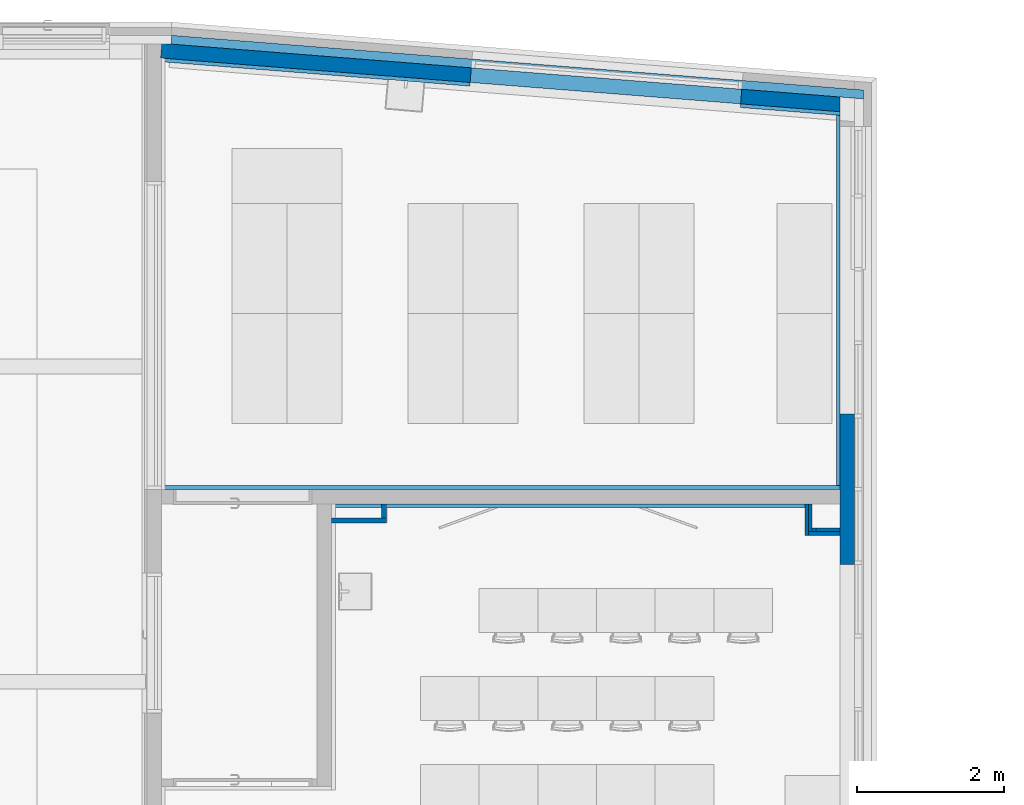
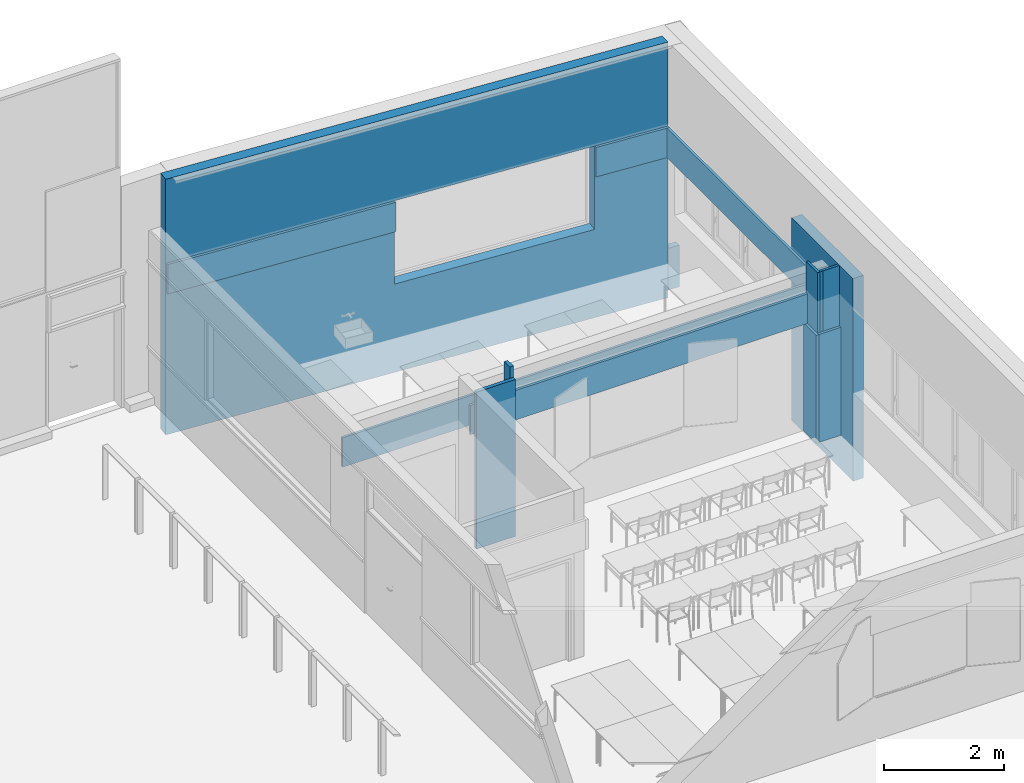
# One storey, part 66 of 137: 14 walls, 4 openings.
"""IFC2X3 building model written with IfcOpenShell, lengths in centimetres."""

from ifc_helpers import new_model, entity, si_unit, converted_unit, derived_unit, direction, frame, frame_2d, origin, origin_2d_with_axis, place, context, subcontext, project, spatial, polyline, rectangle, outline, extrude, clip, bounded_halfspace, material, layer, layer_set, layer_usage, type_object, element, save


model = new_model("IFC2X3")

# Units and contexts
model_context = context("Model", 3, precision=0.001, world=origin(), true_north=direction((6.12303176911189e-17, 1.0)))
body_context = subcontext(model_context, "Body", "Model", "MODEL_VIEW")
ifc_project = project(units=[si_unit("LENGTHUNIT", "METRE", prefix="CENTI"), si_unit("AREAUNIT", "SQUARE_METRE"), si_unit("VOLUMEUNIT", "CUBIC_METRE"), converted_unit("PLANEANGLEUNIT", "DEGREE", entity("IfcRatioMeasure", 0.0174532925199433), si_unit("PLANEANGLEUNIT", "RADIAN"), dimensions=[0, 0, 0, 0, 0, 0, 0]), si_unit("MASSUNIT", "GRAM", prefix="KILO"), si_unit("TIMEUNIT", "SECOND"), si_unit("FREQUENCYUNIT", "HERTZ"), si_unit("THERMODYNAMICTEMPERATUREUNIT", "DEGREE_CELSIUS"), derived_unit("THERMALTRANSMITTANCEUNIT", [(si_unit("MASSUNIT", "GRAM", prefix="KILO"), 1), (si_unit("THERMODYNAMICTEMPERATUREUNIT", "KELVIN"), -1), (si_unit("TIMEUNIT", "SECOND"), -3)]), derived_unit("VOLUMETRICFLOWRATEUNIT", [(si_unit("LENGTHUNIT", "METRE"), 3), (si_unit("TIMEUNIT", "SECOND"), -1)]), si_unit("ELECTRICCURRENTUNIT", "AMPERE"), si_unit("ELECTRICVOLTAGEUNIT", "VOLT"), si_unit("POWERUNIT", "WATT"), si_unit("FORCEUNIT", "NEWTON", prefix="KILO"), si_unit("ILLUMINANCEUNIT", "LUX"), si_unit("LUMINOUSFLUXUNIT", "LUMEN"), si_unit("LUMINOUSINTENSITYUNIT", "CANDELA"), derived_unit("USERDEFINED", [(si_unit("MASSUNIT", "GRAM", prefix="KILO"), -1), (si_unit("LENGTHUNIT", "METRE"), -2), (si_unit("TIMEUNIT", "SECOND"), 3), (si_unit("LUMINOUSFLUXUNIT", "LUMEN"), 1)]), derived_unit("LINEARVELOCITYUNIT", [(si_unit("LENGTHUNIT", "METRE"), 1), (si_unit("TIMEUNIT", "SECOND"), -1)]), si_unit("PRESSUREUNIT", "PASCAL"), derived_unit("USERDEFINED", [(si_unit("LENGTHUNIT", "METRE"), -2), (si_unit("MASSUNIT", "GRAM", prefix="KILO"), 1), (si_unit("TIMEUNIT", "SECOND"), -2)])], contexts=[model_context])

# Site, building, storey
site_placement = place(None, frame((8.62739174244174, -249.285249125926, 0.0)))
site = spatial("IfcSite", under=ifc_project, at=site_placement, Name="Default", CompositionType="ELEMENT")
building_placement = place(site_placement, origin())
building = spatial("IfcBuilding", under=site, at=building_placement, CompositionType="ELEMENT")
storey_placement = place(building_placement, origin())
storey = spatial("IfcBuildingStorey", under=building, at=storey_placement, Name="RDC", CompositionType="ELEMENT", Elevation=-8.82465566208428e-11)

# Walls
ifc_material_1 = material(Name="Plâtre")
ifc_layer_1 = layer(ifc_material_1, 5.0)
ifc_layer_set_1 = layer_set([ifc_layer_1], Name="Mur de base:PLA 5")
ifc_layer_usage_1 = layer_usage(ifc_layer_set_1, "AXIS2", "NEGATIVE", 2.5)
wall_type_1 = type_object("IfcWallType", Name="Mur de base:PLA 5", PredefinedType="STANDARD", material=ifc_layer_set_1)
wall_1_placement = place(storey_placement, frame((3978.90482781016, 6899.77522291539, 0.0), z_axis=(0.0, 0.0, 1.0), x_axis=(-1.0, 0.0, 0.0)))
element("IfcWallStandardCase", 1, at=wall_1_placement, inside=storey, type_object=wall_type_1, material=ifc_layer_usage_1, Name="Mur de base:PLA 5", ObjectType="Mur de base:PLA 5", context=body_context, shape_type="SweptSolid", body=[
    extrude(rectangle(XDim=32.5000000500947, YDim=5.0000000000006, at=frame_2d((16.2500000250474, 0.0), x_axis=(-1.0, 0.0))), origin(), (0.0, 0.0, 1.0), 343.000000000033),
])
ifc_layer_usage_2 = layer_usage(ifc_layer_set_1, "AXIS2", "NEGATIVE", 2.5)
wall_2_placement = place(storey_placement, frame((3978.90482781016, 6899.77522291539, 0.0), z_axis=(0.0, 0.0, 1.0), x_axis=(-1.0, 0.0, 0.0)))
element("IfcWallStandardCase", 2, at=wall_2_placement, inside=storey, type_object=wall_type_1, material=ifc_layer_usage_2, Name="Mur de base:PLA 5", ObjectType="Mur de base:PLA 5", context=body_context, shape_type="SweptSolid", body=[
    extrude(rectangle(XDim=38.0000000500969, YDim=5.0000000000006, at=frame_2d((19.0000000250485, 0.0), x_axis=(-1.0, 0.0))), origin(), (0.0, 0.0, 1.0), 343.000000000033),
])
ifc_layer_usage_3 = layer_usage(ifc_layer_set_1, "AXIS2", "NEGATIVE", 2.5)
wall_3_placement = place(storey_placement, frame((3938.40482776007, 6897.27522291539, 0.0), z_axis=(0.0, 0.0, 1.0), x_axis=(0.0, 1.0, 0.0)))
element("IfcWallStandardCase", 3, at=wall_3_placement, inside=storey, type_object=wall_type_1, material=ifc_layer_usage_3, Name="Mur de base:PLA 5", ObjectType="Mur de base:PLA 5", context=body_context, shape_type="SweptSolid", body=[
    extrude(rectangle(XDim=37.7049852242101, YDim=5.0000000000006, at=frame_2d((18.8524926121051, 0.0), x_axis=(-1.0, 0.0))), origin(), (0.0, 0.0, 1.0), 343.000000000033),
])

# Wall, opening
ifc_layer_2 = layer(ifc_material_1, 7.0)
ifc_layer_set_2 = layer_set([ifc_layer_2], Name="Mur de base:PLA 7")
ifc_layer_usage_4 = layer_usage(ifc_layer_set_2, "AXIS2", "NEGATIVE", 3.5)
wall_type_2 = type_object("IfcWallType", Name="Mur de base:PLA 7", PredefinedType="STANDARD", material=ifc_layer_set_2)
wall_4_placement = place(storey_placement, frame((3285.9048276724, 6912.4802081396, 0.0)))
wall_4 = element("IfcWallStandardCase", 4, at=wall_4_placement, inside=storey, type_object=wall_type_2, material=ifc_layer_usage_4, Name="Mur de base:PLA 7", ObjectType="Mur de base:PLA 7", context=body_context, shape_type="SweptSolid", body=[
    extrude(rectangle(XDim=74.9999999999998, YDim=7.00000000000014, at=frame_2d((37.4999999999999, 0.0), x_axis=(-1.0, 0.0))), origin(), (0.0, 0.0, 1.0), 320.000000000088),
])
opening_1_placement = place(wall_4_placement, origin())
element("IfcOpeningElement", 5, at=opening_1_placement, cuts=wall_4, Name="Mur de base:PLA 7", ObjectType="Opening", context=body_context, shape_type="SweptSolid", body=[
    extrude(rectangle(XDim=50.0000000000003, YDim=7.00000000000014, at=frame_2d((0.0, 0.0), x_axis=(0.0, 1.0))), frame((71.4999999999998, 2.0, 39.5117756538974), z_axis=(0.0, 1.0, 0.0), x_axis=(1.0, 0.0, 0.0)), (0.0, 0.0, 1.0), 15.0000000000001),
])

ifc_layer_usage_5 = layer_usage(ifc_layer_set_2, "AXIS2", "NEGATIVE", 3.5)
wall_5_placement = place(storey_placement, frame((3357.4048276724, 6915.9802081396, 0.0), z_axis=(0.0, 0.0, 1.0), x_axis=(0.0, 1.0, 0.0)))
wall_5 = element("IfcWallStandardCase", 6, at=wall_5_placement, inside=storey, type_object=wall_type_2, material=ifc_layer_usage_5, Name="Mur de base:PLA 7", ObjectType="Mur de base:PLA 7", context=body_context, shape_type="SweptSolid", body=[
    extrude(rectangle(XDim=18.9999999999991, YDim=7.00000000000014, at=frame_2d((9.49999999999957, 0.0), x_axis=(-1.0, 0.0))), origin(), (0.0, 0.0, 1.0), 343.000000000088),
])
opening_2_placement = place(wall_5_placement, origin())
element("IfcOpeningElement", 7, at=opening_2_placement, cuts=wall_5, Name="Mur de base:PLA 7", ObjectType="Opening", context=body_context, shape_type="SweptSolid", body=[
    extrude(rectangle(XDim=50.0000000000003, YDim=15.0000000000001, at=origin_2d_with_axis()), frame((6.0, -148.9, 39.5117756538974), z_axis=(0.0, 1.0, 0.0), x_axis=(0.0, 0.0, -1.0)), (0.0, 0.0, 1.0), 304.8),
])

ifc_material_2 = material(Name="Béton, coulé sur place, gris")
ifc_layer_3 = layer(ifc_material_2, 20.0)
ifc_layer_set_3 = layer_set([ifc_layer_3], Name="Mur de base:BET 21")
ifc_layer_usage_6 = layer_usage(ifc_layer_set_3, "AXIS2", "NEGATIVE", 10.0)
wall_type_3 = type_object("IfcWallType", Name="Mur de base:BET 21", PredefinedType="NOTDEFINED")
wall_6_placement = place(storey_placement, frame((3053.324999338, 7553.02413341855, -70.0), z_axis=(0.0, 0.0, 1.0), x_axis=(0.996888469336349, -0.0788249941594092, 0.0)))
wall_6 = element("IfcWallStandardCase", 8, at=wall_6_placement, inside=storey, type_object=wall_type_3, material=ifc_layer_usage_6, Name="Mur de base:BET 21", ObjectType="Mur de base:BET 21", context=body_context, shape_type="SweptSolid", body=[
    extrude(outline(polyline([(0.0, -10.0), (929.259497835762, -10.0), (927.678077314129, 10.0), (0.0, 10.0), (0.0, -10.0)])), origin(), (0.0, 0.0, 1.0), 521.000000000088),
])
opening_3_placement = place(wall_6_placement, origin())
element("IfcOpeningElement", 9, at=opening_3_placement, cuts=wall_6, Name="Mur de base:BET 21", ObjectType="Opening", context=body_context, shape_type="SweptSolid", body=[
    extrude(rectangle(XDim=170.0, YDim=370.0, at=frame_2d((-7.105427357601e-15, 0.0), x_axis=(1.0, 0.0))), frame((608.396052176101, -25.2399999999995, 265.0), z_axis=(0.0, 1.0, 0.0), x_axis=(0.0, 0.0, 1.0)), (0.0, 0.0, 1.0), 50.4799999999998),
])

# Walls
ifc_layer_4 = layer(ifc_material_2, 20.0)
ifc_layer_set_4 = layer_set([ifc_layer_4], Name="Mur de base:BET 20")
ifc_layer_usage_7 = layer_usage(ifc_layer_set_4, "AXIS2", "NEGATIVE", 10.0)
wall_type_4 = type_object("IfcWallType", Name="Mur de base:BET 20", PredefinedType="STANDARD", material=ifc_layer_set_4)
wall_7_placement = place(storey_placement, frame((3988.90482781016, 6852.4802081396, -70.0), z_axis=(0.0, 0.0, 1.0), x_axis=(0.0, 1.0, 0.0)))
element("IfcWallStandardCase", 10, at=wall_7_placement, inside=storey, type_object=wall_type_4, material=ifc_layer_usage_7, Name="Mur de base:BET 20", ObjectType="Mur de base:BET 20", context=body_context, shape_type="SweptSolid", body=[
    extrude(rectangle(XDim=205.0, YDim=20.0000000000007, at=frame_2d((102.5, 0.0), x_axis=(-1.0, 0.0))), origin(), (0.0, 0.0, 1.0), 413.000000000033),
])
ifc_material_3 = material(Name="Maçonnerie")
ifc_layer_5 = layer(ifc_material_3, 1.0)
ifc_material_4 = material(Name="Laine minérale")
ifc_layer_6 = layer(ifc_material_4, 9.0)
ifc_layer_7 = layer(ifc_material_1, 2.0)
ifc_layer_set_5 = layer_set([ifc_layer_5, ifc_layer_6, ifc_layer_7], Name="Mur de base:PLA 2 +  + ISO 9 + ETAN 1")
ifc_layer_usage_8 = layer_usage(ifc_layer_set_5, "AXIS2", "NEGATIVE", 6.0)
wall_type_5 = type_object("IfcWallType", Name="Mur de base:PLA 2 +  + ISO 9 + ETAN 1", PredefinedType="STANDARD", material=ifc_layer_set_5)
wall_8_placement = place(storey_placement, frame((4011.37777777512, 7493.33049041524, -69.7718089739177), z_axis=(0.0, 0.0, 1.0), x_axis=(-0.996888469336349, 0.0788249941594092, 0.0)))
element("IfcWallStandardCase", 11, at=wall_8_placement, inside=storey, type_object=wall_type_5, material=ifc_layer_usage_8, Name="Mur de base:PLA 2 +  + ISO 9 + ETAN 1", ObjectType="Mur de base:PLA 2 +  + ISO 9 + ETAN 1", context=body_context, shape_type="SweptSolid", body=[
    extrude(outline(polyline([(-29.5125530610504, -565.106071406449), (-17.5032075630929, -565.106071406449), (19.3647522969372, 368.876921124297), (19.8395479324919, 380.905008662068), (7.81146039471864, 380.43021302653), (-29.5125530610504, -565.106071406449)])), frame((381.391129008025, 1.19999999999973, 0.0), z_axis=(0.0, 0.0, 1.0), x_axis=(-0.039443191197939, 0.999221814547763, 0.0)), (0.0, 0.0, 1.0), 84.7718089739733),
])
ifc_layer_8 = layer(ifc_material_4, 3.0)
ifc_material_5 = material(Name="Panneau de grandes particules orientées(1)")
ifc_layer_9 = layer(ifc_material_5, 2.0)
ifc_layer_set_6 = layer_set([ifc_layer_8, ifc_layer_9], Name="Mur de base:ACOUST panneaux fibres")
ifc_layer_usage_9 = layer_usage(ifc_layer_set_6, "AXIS2", "NEGATIVE", 2.5)
wall_type_6 = type_object("IfcWallType", Name="Mur de base:ACOUST panneaux fibres", PredefinedType="STANDARD", material=ifc_layer_set_6)
wall_9_placement = place(storey_placement, frame((3285.9048276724, 6932.4802081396, 220.0)))
element("IfcWallStandardCase", 12, at=wall_9_placement, inside=storey, type_object=wall_type_6, material=ifc_layer_usage_9, Name="Mur de base:ACOUST panneaux fibres", ObjectType="Mur de base:ACOUST panneaux fibres", context=body_context, shape_type="SweptSolid", body=[
    extrude(rectangle(XDim=650.00000008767, YDim=5.0000000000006, at=frame_2d((325.000000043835, 0.0), x_axis=(-1.0, 0.0))), origin(), (0.0, 0.0, 1.0), 60.0),
])
ifc_layer_usage_10 = layer_usage(ifc_layer_set_6, "AXIS2", "NEGATIVE", 2.5)
wall_10_placement = place(storey_placement, frame((3933.40482776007, 6934.9802081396, 0.0), z_axis=(0.0, 0.0, 1.0), x_axis=(0.0, -1.0, 0.0)))
element("IfcWallStandardCase", 13, at=wall_10_placement, inside=storey, type_object=wall_type_6, material=ifc_layer_usage_10, Name="Mur de base:ACOUST panneaux fibres", ObjectType="Mur de base:ACOUST panneaux fibres", context=body_context, shape_type="SweptSolid", body=[
    extrude(rectangle(XDim=42.7049852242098, YDim=5.0000000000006, at=frame_2d((21.3524926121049, 0.0), x_axis=(-1.0, 0.0))), origin(), (0.0, 0.0, 1.0), 220.0),
])
ifc_layer_usage_11 = layer_usage(ifc_layer_set_6, "AXIS2", "NEGATIVE", 2.5)
wall_11_placement = place(storey_placement, frame((3935.90482776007, 6894.77522291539, 0.0)))
element("IfcWallStandardCase", 14, at=wall_11_placement, inside=storey, type_object=wall_type_6, material=ifc_layer_usage_11, Name="Mur de base:ACOUST panneaux fibres", ObjectType="Mur de base:ACOUST panneaux fibres", context=body_context, shape_type="SweptSolid", body=[
    extrude(rectangle(XDim=43.0000000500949, YDim=5.0000000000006, at=frame_2d((21.5000000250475, 0.0), x_axis=(-1.0, 0.0))), origin(), (0.0, 0.0, 1.0), 220.0),
])
ifc_layer_usage_12 = layer_usage(ifc_layer_set_6, "AXIS2", "NEGATIVE", 2.5)
wall_12_placement = place(storey_placement, frame((3978.90482781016, 6957.4802081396, 220.0), z_axis=(0.0, 0.0, 1.0), x_axis=(-1.0, 0.0, 0.0)))
element("IfcWallStandardCase", 15, at=wall_12_placement, inside=storey, type_object=wall_type_6, material=ifc_layer_usage_12, Name="Mur de base:ACOUST panneaux fibres", ObjectType="Mur de base:ACOUST panneaux fibres", context=body_context, shape_type="SweptSolid", body=[
    extrude(rectangle(XDim=925.000000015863, YDim=5.0000000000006, at=frame_2d((462.500000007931, 0.0), x_axis=(-1.0, 0.0))), origin(), (0.0, 0.0, 1.0), 60.0),
])

# Wall, opening
ifc_layer_usage_13 = layer_usage(ifc_layer_set_6, "AXIS2", "NEGATIVE", 2.5)
wall_13_placement = place(storey_placement, frame((3053.7077653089, 7540.45485218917, 220.0), z_axis=(0.0, 0.0, 1.0), x_axis=(0.996888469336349, -0.0788249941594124, 0.0)))
wall_13 = element("IfcWallStandardCase", 16, at=wall_13_placement, inside=storey, type_object=wall_type_6, material=ifc_layer_usage_13, Name="Mur de base:ACOUST panneaux fibres", ObjectType="Mur de base:ACOUST panneaux fibres", context=body_context, shape_type="SweptSolid", body=[
    extrude(outline(polyline([(0.0, 2.50000000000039), (0.395355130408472, -2.49999999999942), (928.28250446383, -2.50000000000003), (927.887149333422, 2.49999999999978), (0.0, 2.50000000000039)])), origin(), (0.0, 0.0, 1.0), 60.0),
])
opening_4_placement = place(wall_13_placement, origin())
element("IfcOpeningElement", 17, at=opening_4_placement, cuts=wall_13, Name="Mur de base:ACOUST panneaux fibres", ObjectType="Opening", context=body_context, shape_type="SweptSolid", body=[
    extrude(rectangle(XDim=170.0, YDim=370.0, at=frame_2d((-7.105427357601e-15, 4.2632564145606e-14), x_axis=(1.0, 0.0))), frame((607.02370367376, -17.7399999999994, -25.0), z_axis=(0.0, 1.0, 0.0), x_axis=(0.0, 0.0, 1.0)), (0.0, 0.0, 1.0), 35.4799999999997),
])

# Wall
ifc_layer_usage_14 = layer_usage(ifc_layer_set_6, "AXIS2", "NEGATIVE", 2.5)
wall_14_placement = place(storey_placement, frame((3976.40482781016, 7465.18612315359, 220.0), z_axis=(0.0, 0.0, 1.0), x_axis=(0.0, -1.0, 0.0)))
element("IfcWallStandardCase", 18, at=wall_14_placement, inside=storey, type_object=wall_type_6, material=ifc_layer_usage_14, Name="Mur de base:ACOUST panneaux fibres", ObjectType="Mur de base:ACOUST panneaux fibres", context=body_context, shape_type="Clipping", body=[
    clip(clip(extrude(rectangle(XDim=505.205915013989, YDim=5.0000000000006, at=frame_2d((252.602957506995, -7.99360577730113e-15), x_axis=(-1.0, 0.0))), origin(), (0.0, 0.0, 1.0), 60.0000000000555), bounded_halfspace(frame((505.205915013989, -2.49999999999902, 60.0), z_axis=(-1.0, 0.0, 0.0), x_axis=(0.0, -1.0, 0.0)), True, frame((505.205915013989, -2.49999999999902, 60.0), z_axis=(-1.0, 0.0, 0.0), x_axis=(0.0, -1.0, 0.0)), polyline([(0.0, 0.0), (-5.0, 0.0), (-5.0, -60.0), (0.0, -60.0), (0.0, 0.0)]))), bounded_halfspace(frame((0.0, -2.499999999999, 0.0), z_axis=(0.996888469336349, -0.0788249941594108, 0.0), x_axis=(0.0788249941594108, 0.996888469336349, 0.0)), True, frame((0.0, -2.499999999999, 0.0), z_axis=(0.996888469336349, -0.0788249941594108, 0.0), x_axis=(0.0788249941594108, 0.996888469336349, 0.0)), polyline([(0.0, 0.0), (5.01560621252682, 0.0), (5.01560621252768, 60.0), (0.0, 60.0), (0.0, 0.0)]))),
])

save(model, "model.ifc")
